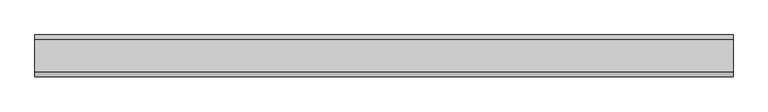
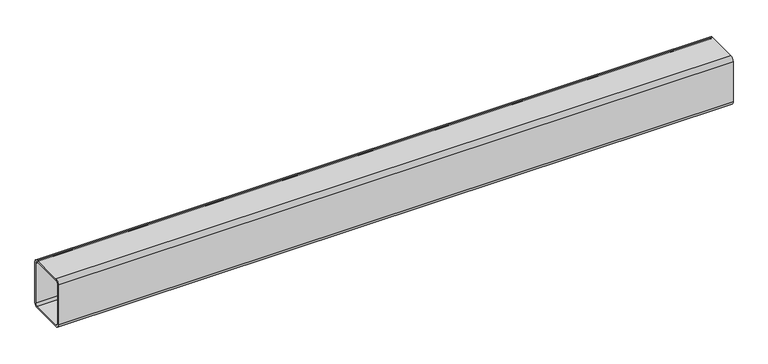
"""IFC4 building model written with IfcOpenShell, lengths in millimetres: beam geometry, Труба прямоугольного сечения (ТУ 67-2287-80) Балки : труба200x160x8."""

from ifc_helpers import new_model, si_unit, point, frame, frame_2d, origin, place, context, project, spatial, polyline, circle_curve, trimmed, segment, composite_curve, outline, extrude, source, transform, mapped, element, save


def beam_d1049bad(model_context):
    return source(origin(), model_context, "Body", "SweptSolid", [
        extrude(outline(composite_curve([segment(polyline([(-64.0, 100.0), (64.0, 100.0)]), True, "CONTINUOUS"), segment(trimmed(circle_curve(frame_2d((64.0, 84.0)), 16.0), [point((64.0, 100.0))], [point((80.0, 84.0))], False, "CARTESIAN"), True, "CONTINUOUS"), segment(polyline([(80.0, 84.0), (80.0, -84.0)]), True, "CONTINUOUS"), segment(trimmed(circle_curve(frame_2d((64.0, -84.0)), 16.0), [point((80.0, -84.0))], [point((64.0, -100.0))], False, "CARTESIAN"), True, "CONTINUOUS"), segment(polyline([(64.0, -100.0), (-64.0, -100.0)]), True, "CONTINUOUS"), segment(trimmed(circle_curve(frame_2d((-64.0, -84.0)), 16.0), [point((-64.0, -100.0))], [point((-80.0, -84.0))], False, "CARTESIAN"), True, "CONTINUOUS"), segment(polyline([(-80.0, -84.0), (-80.0, 84.0)]), True, "CONTINUOUS"), segment(trimmed(circle_curve(frame_2d((-64.0, 84.0)), 16.0), [point((-80.0, 84.0))], [point((-64.0, 100.0))], False, "CARTESIAN"), True, "CONTINUOUS")], self_intersect=False), holes=[composite_curve([segment(trimmed(circle_curve(frame_2d((-64.0, 84.0)), 8.0), [point((-64.0, 92.0))], [point((-72.0, 84.0))], True, "CARTESIAN"), True, "CONTINUOUS"), segment(polyline([(-72.0, 84.0), (-72.0, -84.0)]), True, "CONTINUOUS"), segment(trimmed(circle_curve(frame_2d((-64.0, -84.0)), 8.0), [point((-72.0, -84.0))], [point((-64.0, -92.0))], True, "CARTESIAN"), True, "CONTINUOUS"), segment(polyline([(-64.0, -92.0), (64.0, -92.0)]), True, "CONTINUOUS"), segment(trimmed(circle_curve(frame_2d((64.0, -84.0)), 8.0), [point((64.0, -92.0))], [point((72.0, -84.0))], True, "CARTESIAN"), True, "CONTINUOUS"), segment(polyline([(72.0, -84.0), (72.0, 84.0)]), True, "CONTINUOUS"), segment(trimmed(circle_curve(frame_2d((64.0, 84.0)), 8.0), [point((72.0, 84.0))], [point((64.0, 92.0))], True, "CARTESIAN"), True, "CONTINUOUS"), segment(polyline([(64.0, 92.0), (-64.0, 92.0)]), True, "CONTINUOUS")], self_intersect=False)]), frame((-1298.5, 0.0, 0.0), z_axis=(1.0, 0.0, 0.0), x_axis=(0.0, 1.0, 0.0)), (0.0, 0.0, 1.0), 2677.0),
    ])


if __name__ == "__main__":
    model = new_model("IFC4")
    model_context = context("Model", 3, world=origin())
    ifc_project = project(units=[si_unit("LENGTHUNIT", "METRE", prefix="MILLI")], contexts=[model_context])
    site = spatial("IfcSite", under=ifc_project)
    building = spatial("IfcBuilding", under=site)
    placement = place(None, origin())
    beam_shape = beam_d1049bad(model_context)
    element("IfcBeam", 1, ObjectType="Труба прямоугольного сечения (ТУ 67-2287-80) Балки : труба200x160x8", at=placement, inside=building, context=model_context, shape_type="MappedRepresentation", body=[
        mapped(beam_shape, transform((0.0, 0.0, 0.0), x_axis=(1.0, 0.0, 0.0), y_axis=(0.0, 1.0, 0.0), z_axis=(0.0, 0.0, 1.0))),
    ])
    save(model, "model.ifc")
